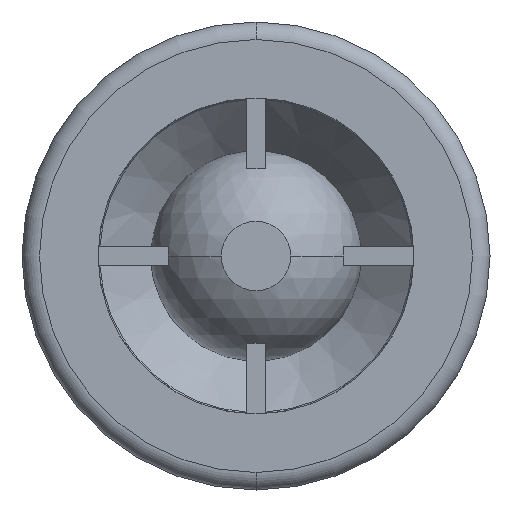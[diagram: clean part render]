
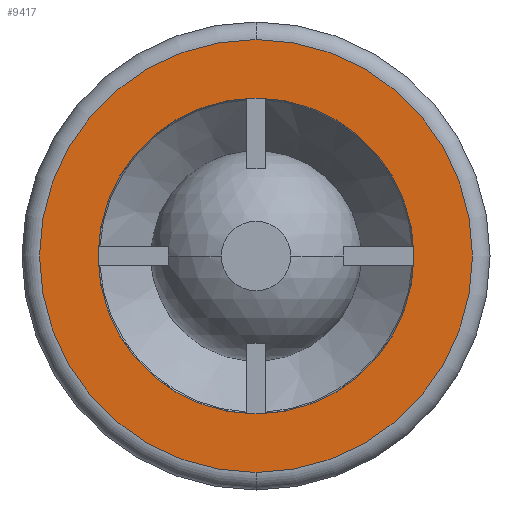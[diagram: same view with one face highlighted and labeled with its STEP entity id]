
A CAD part, front view. The second image highlights one B-rep face of the part: STEP entity #9417.
In plain terms, the highlighted planar face has unit normal (0, -1, 0).
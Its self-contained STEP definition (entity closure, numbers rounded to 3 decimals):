
#2185 = VERTEX_POINT ( 'NONE', #6709 ) ;
#2187 = EDGE_CURVE ( 'NONE', #2185, #2188, #6708, .T. ) ;
#2188 = VERTEX_POINT ( 'NONE', #6703 ) ;
#2202 = EDGE_CURVE ( 'NONE', #2203, #2204, #6741, .T. ) ;
#2203 = VERTEX_POINT ( 'NONE', #6733 ) ;
#2204 = VERTEX_POINT ( 'NONE', #6732 ) ;
#2741 = EDGE_CURVE ( 'NONE', #2188, #2185, #7807, .T. ) ;
#6703 = CARTESIAN_POINT ( 'NONE',  ( 0., 0., -13.5 ) ) ;
#6704 = DIRECTION ( 'NONE',  ( 0., 0., -1. ) ) ;
#6705 = DIRECTION ( 'NONE',  ( 0., -1., 0. ) ) ;
#6706 = CARTESIAN_POINT ( 'NONE',  ( 0., 0., 0. ) ) ;
#6707 = AXIS2_PLACEMENT_3D ( 'NONE', #6706, #6705, #6704 ) ;
#6708 = CIRCLE ( 'NONE', #6707, 13.5 ) ;
#6709 = CARTESIAN_POINT ( 'NONE',  ( 0., 0., 13.5 ) ) ;
#6732 = CARTESIAN_POINT ( 'NONE',  ( 0., 0., 18.5 ) ) ;
#6733 = CARTESIAN_POINT ( 'NONE',  ( 0., 0., -18.5 ) ) ;
#6734 = DIRECTION ( 'NONE',  ( 0., 0., 1. ) ) ;
#6735 = DIRECTION ( 'NONE',  ( 0., -1., 0. ) ) ;
#6736 = CARTESIAN_POINT ( 'NONE',  ( 0., 0., 0. ) ) ;
#6737 = AXIS2_PLACEMENT_3D ( 'NONE', #6736, #6735, #6734 ) ;
#6741 = CIRCLE ( 'NONE', #6737, 18.5 ) ;
#7805 = CARTESIAN_POINT ( 'NONE',  ( 0., 0., 0. ) ) ;
#7806 = AXIS2_PLACEMENT_3D ( 'NONE', #7805, #7864, #7863 ) ;
#7807 = CIRCLE ( 'NONE', #7806, 13.5 ) ;
#7863 = DIRECTION ( 'NONE',  ( 0., 0., -1. ) ) ;
#7864 = DIRECTION ( 'NONE',  ( 0., -1., 0. ) ) ;
#8457 = DIRECTION ( 'NONE',  ( 0., 0., 1. ) ) ;
#8458 = DIRECTION ( 'NONE',  ( 0., 1., 0. ) ) ;
#8459 = CARTESIAN_POINT ( 'NONE',  ( -13.5, 0., 0. ) ) ;
#8461 = AXIS2_PLACEMENT_3D ( 'NONE', #8459, #8458, #8457 ) ;
#8462 = PLANE ( 'NONE',  #8461 ) ;
#8463 = FACE_BOUND ( 'NONE', #9414, .T. ) ;
#8464 = FACE_OUTER_BOUND ( 'NONE', #9424, .T. ) ;
#8465 = DIRECTION ( 'NONE',  ( 0., 0., 1. ) ) ;
#8466 = DIRECTION ( 'NONE',  ( 0., -1., 0. ) ) ;
#8467 = CARTESIAN_POINT ( 'NONE',  ( 0., 0., 0. ) ) ;
#8468 = AXIS2_PLACEMENT_3D ( 'NONE', #8467, #8466, #8465 ) ;
#8470 = CIRCLE ( 'NONE', #8468, 18.5 ) ;
#9408 = ORIENTED_EDGE ( 'NONE', *, *, #9415, .T. ) ;
#9410 = ORIENTED_EDGE ( 'NONE', *, *, #2202, .T. ) ;
#9414 = EDGE_LOOP ( 'NONE', ( #9452, #9451 ) ) ;
#9415 = EDGE_CURVE ( 'NONE', #2204, #2203, #8470, .T. ) ;
#9417 = ADVANCED_FACE ( 'NONE', ( #8464, #8463 ), #8462, .F. ) ;
#9424 = EDGE_LOOP ( 'NONE', ( #9408, #9410 ) ) ;
#9451 = ORIENTED_EDGE ( 'NONE', *, *, #2187, .F. ) ;
#9452 = ORIENTED_EDGE ( 'NONE', *, *, #2741, .F. ) ;
